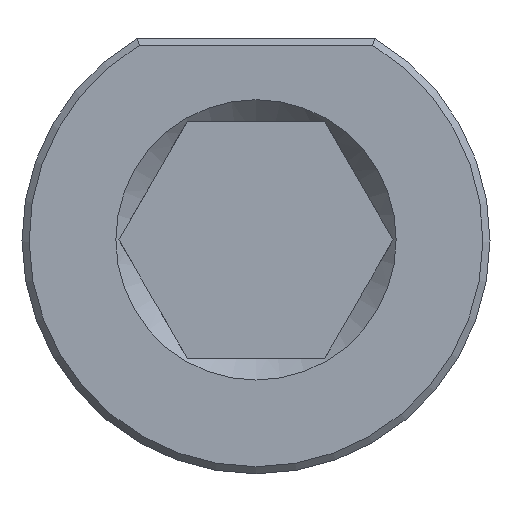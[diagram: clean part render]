
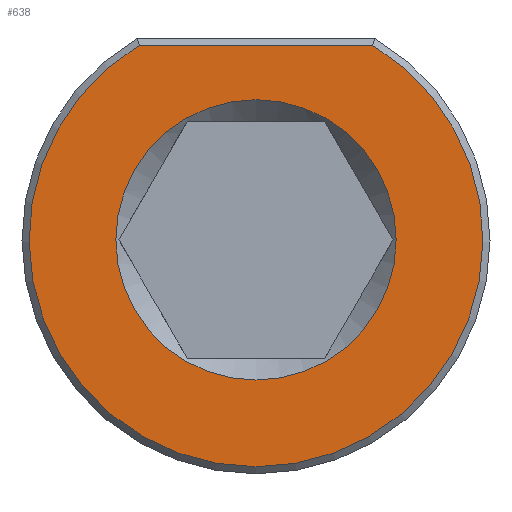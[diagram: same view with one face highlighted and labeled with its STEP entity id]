
A CAD part, front view. The second image highlights one B-rep face of the part: STEP entity #638.
In plain terms, the highlighted planar face has unit normal (0, -1, 0).
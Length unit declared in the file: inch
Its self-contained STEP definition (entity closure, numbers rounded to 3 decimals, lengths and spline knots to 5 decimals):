
#70=FACE_BOUND('',#200,.T.);
#92=LINE('',#1187,#129);
#129=VECTOR('',#807,0.3937);
#162=FACE_OUTER_BOUND('',#199,.T.);
#199=EDGE_LOOP('',(#492,#493));
#200=EDGE_LOOP('',(#494));
#236=CIRCLE('',#696,0.4775);
#238=CIRCLE('',#701,0.295);
#290=VERTEX_POINT('',#1175);
#291=VERTEX_POINT('',#1180);
#294=VERTEX_POINT('',#1196);
#366=EDGE_CURVE('',#290,#291,#236,.T.);
#368=EDGE_CURVE('',#291,#290,#92,.T.);
#373=EDGE_CURVE('',#294,#294,#238,.T.);
#492=ORIENTED_EDGE('',*,*,#366,.F.);
#493=ORIENTED_EDGE('',*,*,#368,.F.);
#494=ORIENTED_EDGE('',*,*,#373,.F.);
#615=PLANE('',#700);
#638=ADVANCED_FACE('',(#162,#70),#615,.F.);
#696=AXIS2_PLACEMENT_3D('',#1181,#803,#804);
#700=AXIS2_PLACEMENT_3D('',#1195,#815,#816);
#701=AXIS2_PLACEMENT_3D('',#1197,#817,#818);
#803=DIRECTION('center_axis',(0.,1.,0.));
#804=DIRECTION('ref_axis',(-0.507,0.,-0.862));
#807=DIRECTION('',(1.,0.,0.));
#815=DIRECTION('center_axis',(0.,1.,0.));
#816=DIRECTION('ref_axis',(1.,0.,0.));
#817=DIRECTION('center_axis',(0.,-1.,0.));
#818=DIRECTION('ref_axis',(1.,0.,0.));
#1175=CARTESIAN_POINT('',(0.24559,0.,0.4095));
#1180=CARTESIAN_POINT('',(-0.24559,0.,0.4095));
#1181=CARTESIAN_POINT('Origin',(0.,0.,0.));
#1187=CARTESIAN_POINT('',(-0.12486,0.,0.4095));
#1195=CARTESIAN_POINT('Origin',(0.,0.,-0.034));
#1196=CARTESIAN_POINT('',(-0.295,0.,0.));
#1197=CARTESIAN_POINT('Origin',(0.,0.,0.));
